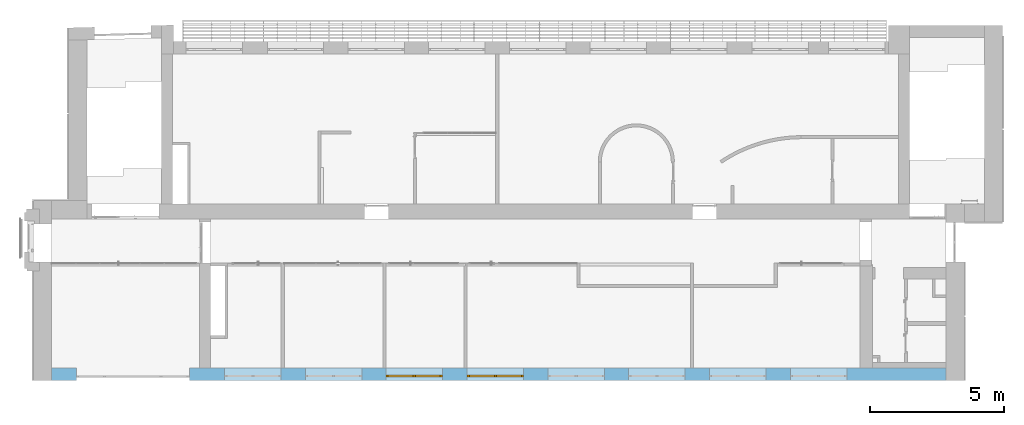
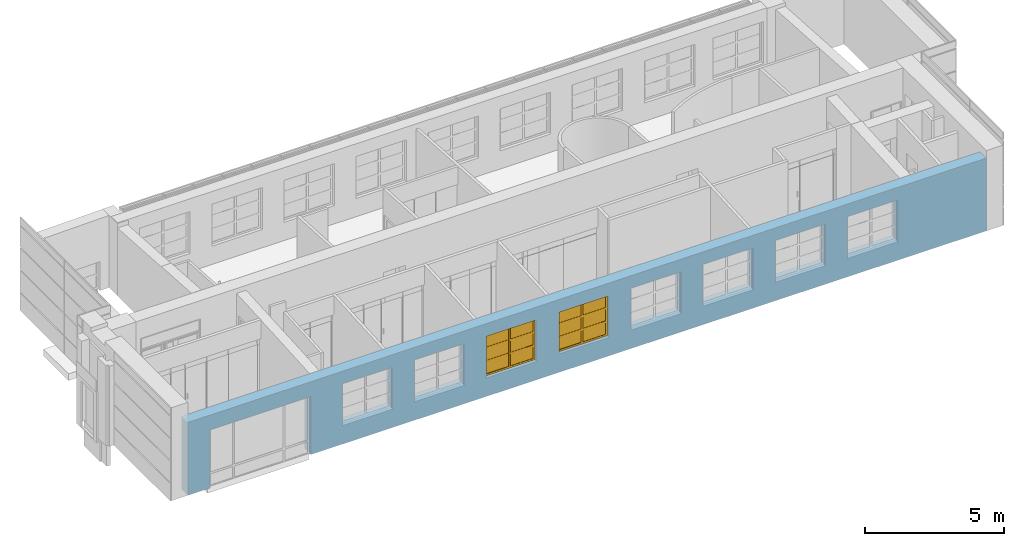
# One storey, part 27 of 46: 2 windows, 9 openings, plus 1 element that does not belong to this part.
"""IFC2X3 building model written with IfcOpenShell, lengths in millimetres."""

from ifc_helpers import new_model, entity, si_unit, converted_unit, derived_unit, direction, frame, frame_2d, origin, origin_2d_with_axis, place, context, subcontext, project, spatial, rectangle, extrude, face_set, surface_model, source, transform, mapped, material, material_list, layer, layer_set, layer_usage, type_object, type_shapes, element, fill, save


model = new_model("IFC2X3")

# Units and contexts
model_context = context("Model", 3, precision=0.01, world=origin(), true_north=direction((6.12303176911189e-17, 1.0)))
body_context = subcontext(model_context, "Body", "Model", "MODEL_VIEW")
ifc_project = project(units=[si_unit("LENGTHUNIT", "METRE", prefix="MILLI"), si_unit("AREAUNIT", "SQUARE_METRE"), si_unit("VOLUMEUNIT", "CUBIC_METRE"), converted_unit("PLANEANGLEUNIT", "DEGREE", entity("IfcRatioMeasure", 0.0174532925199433), si_unit("PLANEANGLEUNIT", "RADIAN"), dimensions=[0, 0, 0, 0, 0, 0, 0]), si_unit("MASSUNIT", "GRAM", prefix="KILO"), derived_unit("MASSDENSITYUNIT", [(si_unit("MASSUNIT", "GRAM", prefix="KILO"), 1), (si_unit("LENGTHUNIT", "METRE"), -3)]), si_unit("TIMEUNIT", "SECOND"), si_unit("FREQUENCYUNIT", "HERTZ"), si_unit("THERMODYNAMICTEMPERATUREUNIT", "DEGREE_CELSIUS"), derived_unit("THERMALTRANSMITTANCEUNIT", [(si_unit("MASSUNIT", "GRAM", prefix="KILO"), 1), (si_unit("THERMODYNAMICTEMPERATUREUNIT", "KELVIN"), -1), (si_unit("TIMEUNIT", "SECOND"), -3)]), derived_unit("VOLUMETRICFLOWRATEUNIT", [(si_unit("LENGTHUNIT", "METRE"), 3), (si_unit("TIMEUNIT", "SECOND"), -1)]), si_unit("ELECTRICCURRENTUNIT", "AMPERE"), si_unit("ELECTRICVOLTAGEUNIT", "VOLT"), si_unit("POWERUNIT", "WATT"), si_unit("FORCEUNIT", "NEWTON", prefix="KILO"), si_unit("ILLUMINANCEUNIT", "LUX"), si_unit("LUMINOUSFLUXUNIT", "LUMEN"), si_unit("LUMINOUSINTENSITYUNIT", "CANDELA"), derived_unit("USERDEFINED", [(si_unit("MASSUNIT", "GRAM", prefix="KILO"), -1), (si_unit("LENGTHUNIT", "METRE"), -2), (si_unit("TIMEUNIT", "SECOND"), 3), (si_unit("LUMINOUSFLUXUNIT", "LUMEN"), 1)]), derived_unit("LINEARVELOCITYUNIT", [(si_unit("LENGTHUNIT", "METRE"), 1), (si_unit("TIMEUNIT", "SECOND"), -1)]), si_unit("PRESSUREUNIT", "PASCAL"), derived_unit("USERDEFINED", [(si_unit("LENGTHUNIT", "METRE"), -2), (si_unit("MASSUNIT", "GRAM", prefix="KILO"), 1), (si_unit("TIMEUNIT", "SECOND"), -2)])], contexts=[model_context])

# Site, building, storey
site_placement = place(None, frame((-151.875543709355, 2715.0, 0.0)))
site = spatial("IfcSite", under=ifc_project, at=site_placement, Name="Surface", CompositionType="ELEMENT")
building_placement = place(site_placement, origin())
building = spatial("IfcBuilding", under=site, at=building_placement, CompositionType="ELEMENT")
storey_placement = place(building_placement, frame((0.0, 0.0, 10060.0)))
storey = spatial("IfcBuildingStorey", under=building, at=storey_placement, Name="4 korrus", CompositionType="ELEMENT", Elevation=10060.0000000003)

# Wall, openings, windows
ifc_material_1 = material(Name="Brick, Common")
ifc_layer_1 = layer(ifc_material_1, 440.0)
ifc_material_2 = material(Name="__Kips GN13_tava")
ifc_layer_2 = layer(ifc_material_2, 20.0)
ifc_layer_set = layer_set([ifc_layer_1, ifc_layer_2], Name="Basic Wall:VS-1")
ifc_layer_usage = layer_usage(ifc_layer_set, "AXIS2", "NEGATIVE", 230.0)
wall_type = type_object("IfcWallType", Name="Basic Wall:VS-1", PredefinedType="STANDARD", material=ifc_layer_set)
wall_placement = place(storey_placement, frame((33741.6162682, 229.904632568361, 0.0), z_axis=(0.0, 0.0, 1.0), x_axis=(-1.0, 0.0, 0.0)))
wall = element("IfcWallStandardCase", 1, at=wall_placement, inside=storey, type_object=wall_type, material=ifc_layer_usage, Name="SEIN - 001", ObjectType="Basic Wall:VS-1", context=body_context, shape_type="SweptSolid", body=[
    extrude(rectangle(XDim=33281.740722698, YDim=460.0, at=frame_2d((16640.870361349, 0.0), x_axis=(-1.0, 0.0))), origin(), (0.0, 0.0, 1.0), 3210.37840402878),
])
opening_1_placement = place(wall_placement, frame((33741.6162682, 229.904632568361, 0.0), z_axis=(0.0, 0.0, 1.0), x_axis=(-1.0, 0.0, 0.0)))
element("IfcOpeningElement", 2, at=opening_1_placement, cuts=wall, Name="SEIN - 001", ObjectType="Opening", context=body_context, shape_type="SweptSolid", body=[
    extrude(rectangle(XDim=2560.0, YDim=4200.0, at=frame_2d((2.27373675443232e-13, 1.02318153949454e-12), x_axis=(0.0, 1.0))), frame((3483.85381698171, 928.104632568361, 1280.0), z_axis=(0.0, -1.0, 0.0), x_axis=(-1.0, 0.0, 0.0)), (0.0, 0.0, 1.0), 1393.8),
])
opening_2_placement = place(wall_placement, frame((33741.6162682, 229.904632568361, 0.0), z_axis=(0.0, 0.0, 1.0), x_axis=(-1.0, 0.0, 0.0)))
element("IfcOpeningElement", 3, at=opening_2_placement, cuts=wall, Name="SEIN - 001", ObjectType="Opening", context=body_context, shape_type="SweptSolid", body=[
    extrude(rectangle(XDim=1850.0, YDim=2100.0, at=frame_2d((0.0, 1.02318153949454e-12), x_axis=(1.0, 0.0))), frame((10949.5647264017, 927.804632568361, 1734.628696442), z_axis=(0.0, -1.0, 0.0), x_axis=(0.0, 0.0, 1.0)), (0.0, 0.0, 1.0), 1393.8),
])
opening_3_placement = place(wall_placement, frame((33741.6162682, 229.904632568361, 0.0), z_axis=(0.0, 0.0, 1.0), x_axis=(-1.0, 0.0, 0.0)))
element("IfcOpeningElement", 4, at=opening_3_placement, cuts=wall, Name="SEIN - 001", ObjectType="Opening", context=body_context, shape_type="SweptSolid", body=[
    extrude(rectangle(XDim=1850.0, YDim=2100.0, at=frame_2d((0.0, 5.6843418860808e-13), x_axis=(1.0, 0.0))), frame((7949.56472636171, 927.804632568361, 1734.628696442), z_axis=(0.0, -1.0, 0.0), x_axis=(0.0, 0.0, 1.0)), (0.0, 0.0, 1.0), 1393.8),
])
opening_4_placement = place(wall_placement, frame((33741.6162682, 229.904632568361, 0.0), z_axis=(0.0, 0.0, 1.0), x_axis=(-1.0, 0.0, 0.0)))
opening_4 = element("IfcOpeningElement", 5, at=opening_4_placement, cuts=wall, Name="SEIN - 001", ObjectType="Opening", context=body_context, shape_type="SweptSolid", body=[
    extrude(rectangle(XDim=1850.0, YDim=2100.0, at=origin_2d_with_axis()), frame((13949.5647264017, 927.804632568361, 1734.628696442), z_axis=(0.0, -1.0, 0.0), x_axis=(0.0, 0.0, 1.0)), (0.0, 0.0, 1.0), 1393.8),
])
opening_5_placement = place(wall_placement, frame((33741.6162682, 229.904632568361, 0.0), z_axis=(0.0, 0.0, 1.0), x_axis=(-1.0, 0.0, 0.0)))
opening_5 = element("IfcOpeningElement", 6, at=opening_5_placement, cuts=wall, Name="SEIN - 001", ObjectType="Opening", context=body_context, shape_type="SweptSolid", body=[
    extrude(rectangle(XDim=1850.0, YDim=2100.0, at=frame_2d((0.0, 1.02318153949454e-12), x_axis=(1.0, 0.0))), frame((16969.5647264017, 927.804632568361, 1734.628696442), z_axis=(0.0, -1.0, 0.0), x_axis=(0.0, 0.0, 1.0)), (0.0, 0.0, 1.0), 1393.8),
])
opening_6_placement = place(wall_placement, frame((33741.6162682, 229.904632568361, 0.0), z_axis=(0.0, 0.0, 1.0), x_axis=(-1.0, 0.0, 0.0)))
element("IfcOpeningElement", 7, at=opening_6_placement, cuts=wall, Name="SEIN - 001", ObjectType="Opening", context=body_context, shape_type="SweptSolid", body=[
    extrude(rectangle(XDim=1850.0, YDim=2100.0, at=origin_2d_with_axis()), frame((19979.5647264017, 927.804632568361, 1734.628696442), z_axis=(0.0, -1.0, 0.0), x_axis=(0.0, 0.0, 1.0)), (0.0, 0.0, 1.0), 1393.8),
])
opening_7_placement = place(wall_placement, frame((33741.6162682, 229.904632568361, 0.0), z_axis=(0.0, 0.0, 1.0), x_axis=(-1.0, 0.0, 0.0)))
element("IfcOpeningElement", 8, at=opening_7_placement, cuts=wall, Name="SEIN - 001", ObjectType="Opening", context=body_context, shape_type="SweptSolid", body=[
    extrude(rectangle(XDim=1850.0, YDim=2100.0, at=origin_2d_with_axis()), frame((22979.5647264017, 927.804632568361, 1734.628696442), z_axis=(0.0, -1.0, 0.0), x_axis=(0.0, 0.0, 1.0)), (0.0, 0.0, 1.0), 1393.8),
])
opening_8_placement = place(wall_placement, frame((33741.6162682, 229.904632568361, 0.0), z_axis=(0.0, 0.0, 1.0), x_axis=(-1.0, 0.0, 0.0)))
element("IfcOpeningElement", 9, at=opening_8_placement, cuts=wall, Name="SEIN - 001", ObjectType="Opening", context=body_context, shape_type="SweptSolid", body=[
    extrude(rectangle(XDim=1850.0, YDim=2100.0, at=origin_2d_with_axis()), frame((25989.5647264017, 927.804632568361, 1734.628696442), z_axis=(0.0, -1.0, 0.0), x_axis=(0.0, 0.0, 1.0)), (0.0, 0.0, 1.0), 1393.8),
])
opening_9_placement = place(wall_placement, frame((33741.6162682, 229.904632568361, 0.0), z_axis=(0.0, 0.0, 1.0), x_axis=(-1.0, 0.0, 0.0)))
element("IfcOpeningElement", 10, at=opening_9_placement, cuts=wall, Name="SEIN - 001", ObjectType="Opening", context=body_context, shape_type="SweptSolid", body=[
    extrude(rectangle(XDim=1850.0, YDim=2100.0, at=origin_2d_with_axis()), frame((28999.5647264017, 927.804632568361, 1734.628696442), z_axis=(0.0, -1.0, 0.0), x_axis=(0.0, 0.0, 1.0)), (0.0, 0.0, 1.0), 1393.8),
])
ifc_material_3 = material(Name="Paint - Titanium White")
ifc_material_4 = material(Name="Paint - Dark Gray")
ifc_material_5 = material(Name="Glass - Clear Fast")
ifc_material_list_1 = material_list([ifc_material_3, ifc_material_4, ifc_material_5])
ifc_material_list_2 = material_list([ifc_material_3, ifc_material_4, ifc_material_5])
window_style = type_object("IfcWindowStyle", Name="Aken_1850x2100", ConstructionType="NOTDEFINED", OperationType="DOUBLE_PANEL_VERTICAL", ParameterTakesPrecedence=False, Sizeable=False, material=ifc_material_list_2)
shared_shape = source(origin(), body_context, "Body", "SurfaceModel", [
    surface_model("IfcFaceBasedSurfaceModel", [(80.0, -665.9, 1770.0), (80.0, -620.9, 1770.0), (0.0, -620.9, 1770.0), (0.0, -665.9, 1770.0), (80.0, -665.9, 80.0), (80.0, -620.9, 80.0), (80.0, -620.9, 1770.0), (80.0, -665.9, 1770.0), (80.0, -620.9, 1770.0), (80.0, -620.9, 80.0), (0.0, -620.9, 80.0), (0.0, -620.9, 1770.0), (0.0, -665.9, 1770.0), (0.0, -620.9, 1770.0), (0.0, -620.9, 80.0), (0.0, -665.9, 80.0), (80.0, -665.9, 1770.0), (0.0, -665.9, 1770.0), (0.0, -665.9, 80.0), (80.0, -665.9, 80.0), (0.0, -665.9, 80.0), (0.0, -620.9, 80.0), (80.0, -620.9, 80.0), (80.0, -665.9, 80.0), (2020.0, -665.9, 80.0), (2020.0, -620.9, 80.0), (2100.0, -620.9, 80.0), (2100.0, -665.9, 80.0), (2020.0, -665.9, 1770.0), (2020.0, -620.9, 1770.0), (2020.0, -620.9, 80.0), (2020.0, -665.9, 80.0), (2020.0, -620.9, 80.0), (2020.0, -620.9, 1770.0), (2100.0, -620.9, 1770.0), (2100.0, -620.9, 80.0), (2100.0, -665.9, 80.0), (2100.0, -620.9, 80.0), (2100.0, -620.9, 1770.0), (2100.0, -665.9, 1770.0), (2020.0, -665.9, 80.0), (2100.0, -665.9, 80.0), (2100.0, -665.9, 1770.0), (2020.0, -665.9, 1770.0), (2100.0, -665.9, 1770.0), (2100.0, -620.9, 1770.0), (2020.0, -620.9, 1770.0), (2020.0, -665.9, 1770.0), (1010.0, -665.9, 80.0), (1010.0, -620.9, 80.0), (1090.0, -620.9, 80.0), (1090.0, -665.9, 80.0), (1010.0, -665.9, 1770.0), (1010.0, -620.9, 1770.0), (1010.0, -620.9, 80.0), (1010.0, -665.9, 80.0), (1010.0, -620.9, 80.0), (1010.0, -620.9, 1770.0), (1090.0, -620.9, 1770.0), (1090.0, -620.9, 80.0), (1090.0, -665.9, 80.0), (1090.0, -620.9, 80.0), (1090.0, -620.9, 1770.0), (1090.0, -665.9, 1770.0), (1010.0, -665.9, 80.0), (1090.0, -665.9, 80.0), (1090.0, -665.9, 1770.0), (1010.0, -665.9, 1770.0), (1090.0, -665.9, 1770.0), (1090.0, -620.9, 1770.0), (1010.0, -620.9, 1770.0), (1010.0, -665.9, 1770.0), (80.0, -665.9, 80.0), (80.0, -620.9, 80.0), (0.0, -620.9, 80.0), (0.0, -665.9, 80.0), (1010.0, -665.9, 80.0), (1010.0, -620.9, 80.0), (80.0, -620.9, 80.0), (80.0, -665.9, 80.0), (80.0, -620.9, 80.0), (1010.0, -620.9, 80.0), (1090.0, -620.9, 80.0), (2020.0, -620.9, 80.0), (2100.0, -620.9, 80.0), (2100.0, -620.9, 0.0), (0.0, -620.9, 0.0), (0.0, -620.9, 80.0), (0.0, -665.9, 80.0), (0.0, -620.9, 80.0), (0.0, -620.9, 0.0), (0.0, -665.9, 0.0), (80.0, -665.9, 80.0), (0.0, -665.9, 80.0), (0.0, -665.9, 0.0), (2100.0, -665.9, 0.0), (2100.0, -665.9, 80.0), (2020.0, -665.9, 80.0), (1090.0, -665.9, 80.0), (1010.0, -665.9, 80.0), (1090.0, -665.9, 80.0), (1090.0, -620.9, 80.0), (1010.0, -620.9, 80.0), (1010.0, -665.9, 80.0), (2020.0, -665.9, 80.0), (2020.0, -620.9, 80.0), (1090.0, -620.9, 80.0), (1090.0, -665.9, 80.0), (2100.0, -665.9, 80.0), (2100.0, -620.9, 80.0), (2020.0, -620.9, 80.0), (2020.0, -665.9, 80.0), (2100.0, -665.9, 0.0), (2100.0, -620.9, 0.0), (2100.0, -620.9, 80.0), (2100.0, -665.9, 80.0), (0.0, -665.9, 0.0), (0.0, -620.9, 0.0), (2100.0, -620.9, 0.0), (2100.0, -665.9, 0.0), (1010.0, -665.9, 1770.0), (1010.0, -620.9, 1770.0), (1090.0, -620.9, 1770.0), (1090.0, -665.9, 1770.0), (80.0, -665.9, 1770.0), (80.0, -620.9, 1770.0), (1010.0, -620.9, 1770.0), (1010.0, -665.9, 1770.0), (1010.0, -620.9, 1770.0), (80.0, -620.9, 1770.0), (0.0, -620.9, 1770.0), (0.0, -620.9, 1850.0), (2100.0, -620.9, 1850.0), (2100.0, -620.9, 1770.0), (2020.0, -620.9, 1770.0), (1090.0, -620.9, 1770.0), (1090.0, -665.9, 1770.0), (1090.0, -620.9, 1770.0), (2020.0, -620.9, 1770.0), (2020.0, -665.9, 1770.0), (1010.0, -665.9, 1770.0), (1090.0, -665.9, 1770.0), (2020.0, -665.9, 1770.0), (2100.0, -665.9, 1770.0), (2100.0, -665.9, 1850.0), (0.0, -665.9, 1850.0), (0.0, -665.9, 1770.0), (80.0, -665.9, 1770.0), (0.0, -665.9, 1770.0), (0.0, -620.9, 1770.0), (80.0, -620.9, 1770.0), (80.0, -665.9, 1770.0), (0.0, -665.9, 1850.0), (0.0, -620.9, 1850.0), (0.0, -620.9, 1770.0), (0.0, -665.9, 1770.0), (2100.0, -665.9, 1850.0), (2100.0, -620.9, 1850.0), (0.0, -620.9, 1850.0), (0.0, -665.9, 1850.0), (2100.0, -665.9, 1770.0), (2100.0, -620.9, 1770.0), (2100.0, -620.9, 1850.0), (2100.0, -665.9, 1850.0), (2020.0, -665.9, 1770.0), (2020.0, -620.9, 1770.0), (2100.0, -620.9, 1770.0), (2100.0, -665.9, 1770.0), (80.0, -640.9, 590.0), (80.0, -630.9, 590.0), (1010.0, -630.9, 590.0), (1010.0, -640.9, 590.0), (80.0, -640.9, 670.0), (80.0, -630.9, 670.0), (80.0, -630.9, 590.0), (80.0, -640.9, 590.0), (80.0, -630.9, 590.0), (80.0, -630.9, 670.0), (1010.0, -630.9, 670.0), (1010.0, -630.9, 590.0), (1010.0, -640.9, 590.0), (1010.0, -630.9, 590.0), (1010.0, -630.9, 670.0), (1010.0, -640.9, 670.0), (80.0, -640.9, 590.0), (1010.0, -640.9, 590.0), (1010.0, -640.9, 670.0), (80.0, -640.9, 670.0), (1010.0, -640.9, 670.0), (1010.0, -630.9, 670.0), (80.0, -630.9, 670.0), (80.0, -640.9, 670.0), (80.0, -640.9, 1180.0), (80.0, -630.9, 1180.0), (1010.0, -630.9, 1180.0), (1010.0, -640.9, 1180.0), (80.0, -640.9, 1260.0), (80.0, -630.9, 1260.0), (80.0, -630.9, 1180.0), (80.0, -640.9, 1180.0), (80.0, -630.9, 1180.0), (80.0, -630.9, 1260.0), (1010.0, -630.9, 1260.0), (1010.0, -630.9, 1180.0), (1010.0, -640.9, 1180.0), (1010.0, -630.9, 1180.0), (1010.0, -630.9, 1260.0), (1010.0, -640.9, 1260.0), (80.0, -640.9, 1180.0), (1010.0, -640.9, 1180.0), (1010.0, -640.9, 1260.0), (80.0, -640.9, 1260.0), (1010.0, -640.9, 1260.0), (1010.0, -630.9, 1260.0), (80.0, -630.9, 1260.0), (80.0, -640.9, 1260.0), (1090.0, -640.9, 590.0), (1090.0, -630.9, 590.0), (2020.0, -630.9, 590.0), (2020.0, -640.9, 590.0), (1090.0, -640.9, 670.0), (1090.0, -630.9, 670.0), (1090.0, -630.9, 590.0), (1090.0, -640.9, 590.0), (1090.0, -630.9, 590.0), (1090.0, -630.9, 670.0), (2020.0, -630.9, 670.0), (2020.0, -630.9, 590.0), (2020.0, -640.9, 590.0), (2020.0, -630.9, 590.0), (2020.0, -630.9, 670.0), (2020.0, -640.9, 670.0), (1090.0, -640.9, 590.0), (2020.0, -640.9, 590.0), (2020.0, -640.9, 670.0), (1090.0, -640.9, 670.0), (2020.0, -640.9, 670.0), (2020.0, -630.9, 670.0), (1090.0, -630.9, 670.0), (1090.0, -640.9, 670.0), (1090.0, -640.9, 1180.0), (1090.0, -630.9, 1180.0), (2020.0, -630.9, 1180.0), (2020.0, -640.9, 1180.0), (1090.0, -640.9, 1260.0), (1090.0, -630.9, 1260.0), (1090.0, -630.9, 1180.0), (1090.0, -640.9, 1180.0), (1090.0, -630.9, 1180.0), (1090.0, -630.9, 1260.0), (2020.0, -630.9, 1260.0), (2020.0, -630.9, 1180.0), (2020.0, -640.9, 1180.0), (2020.0, -630.9, 1180.0), (2020.0, -630.9, 1260.0), (2020.0, -640.9, 1260.0), (1090.0, -640.9, 1180.0), (2020.0, -640.9, 1180.0), (2020.0, -640.9, 1260.0), (1090.0, -640.9, 1260.0), (2020.0, -640.9, 1260.0), (2020.0, -630.9, 1260.0), (1090.0, -630.9, 1260.0), (1090.0, -640.9, 1260.0)], [face_set([[[0, 1, 2, 3]]]), face_set([[[4, 5, 6, 7]]]), face_set([[[8, 9, 10, 11]]]), face_set([[[12, 13, 14, 15]]]), face_set([[[16, 17, 18, 19]]]), face_set([[[20, 21, 22, 23]]]), face_set([[[24, 25, 26, 27]]]), face_set([[[28, 29, 30, 31]]]), face_set([[[32, 33, 34, 35]]]), face_set([[[36, 37, 38, 39]]]), face_set([[[40, 41, 42, 43]]]), face_set([[[44, 45, 46, 47]]]), face_set([[[48, 49, 50, 51]]]), face_set([[[52, 53, 54, 55]]]), face_set([[[56, 57, 58, 59]]]), face_set([[[60, 61, 62, 63]]]), face_set([[[64, 65, 66, 67]]]), face_set([[[68, 69, 70, 71]]]), face_set([[[72, 73, 74, 75]]]), face_set([[[76, 77, 78, 79]]]), face_set([[[80, 81, 82, 83, 84, 85, 86, 87]]]), face_set([[[88, 89, 90, 91]]]), face_set([[[92, 93, 94, 95, 96, 97, 98, 99]]]), face_set([[[100, 101, 102, 103]]]), face_set([[[104, 105, 106, 107]]]), face_set([[[108, 109, 110, 111]]]), face_set([[[112, 113, 114, 115]]]), face_set([[[116, 117, 118, 119]]]), face_set([[[120, 121, 122, 123]]]), face_set([[[124, 125, 126, 127]]]), face_set([[[128, 129, 130, 131, 132, 133, 134, 135]]]), face_set([[[136, 137, 138, 139]]]), face_set([[[140, 141, 142, 143, 144, 145, 146, 147]]]), face_set([[[148, 149, 150, 151]]]), face_set([[[152, 153, 154, 155]]]), face_set([[[156, 157, 158, 159]]]), face_set([[[160, 161, 162, 163]]]), face_set([[[164, 165, 166, 167]]]), face_set([[[168, 169, 170, 171]]]), face_set([[[172, 173, 174, 175]]]), face_set([[[176, 177, 178, 179]]]), face_set([[[180, 181, 182, 183]]]), face_set([[[184, 185, 186, 187]]]), face_set([[[188, 189, 190, 191]]]), face_set([[[192, 193, 194, 195]]]), face_set([[[196, 197, 198, 199]]]), face_set([[[200, 201, 202, 203]]]), face_set([[[204, 205, 206, 207]]]), face_set([[[208, 209, 210, 211]]]), face_set([[[212, 213, 214, 215]]]), face_set([[[216, 217, 218, 219]]]), face_set([[[220, 221, 222, 223]]]), face_set([[[224, 225, 226, 227]]]), face_set([[[228, 229, 230, 231]]]), face_set([[[232, 233, 234, 235]]]), face_set([[[236, 237, 238, 239]]]), face_set([[[240, 241, 242, 243]]]), face_set([[[244, 245, 246, 247]]]), face_set([[[248, 249, 250, 251]]]), face_set([[[252, 253, 254, 255]]]), face_set([[[256, 257, 258, 259]]]), face_set([[[260, 261, 262, 263]]])]),
    surface_model("IfcFaceBasedSurfaceModel", [(80.0, -620.9, 1770.0), (80.0, -595.9, 1770.0), (0.0, -595.9, 1770.0), (0.0, -620.9, 1770.0), (80.0, -620.9, 80.0), (80.0, -595.9, 80.0), (80.0, -595.9, 1770.0), (80.0, -620.9, 1770.0), (80.0, -595.9, 1770.0), (80.0, -595.9, 80.0), (0.0, -595.9, 80.0), (0.0, -595.9, 1770.0), (0.0, -620.9, 1770.0), (0.0, -595.9, 1770.0), (0.0, -595.9, 80.0), (0.0, -620.9, 80.0), (80.0, -620.9, 1770.0), (0.0, -620.9, 1770.0), (0.0, -620.9, 80.0), (80.0, -620.9, 80.0), (0.0, -620.9, 80.0), (0.0, -595.9, 80.0), (80.0, -595.9, 80.0), (80.0, -620.9, 80.0), (2020.0, -620.9, 80.0), (2020.0, -595.9, 80.0), (2100.0, -595.9, 80.0), (2100.0, -620.9, 80.0), (2020.0, -620.9, 1770.0), (2020.0, -595.9, 1770.0), (2020.0, -595.9, 80.0), (2020.0, -620.9, 80.0), (2020.0, -595.9, 80.0), (2020.0, -595.9, 1770.0), (2100.0, -595.9, 1770.0), (2100.0, -595.9, 80.0), (2100.0, -620.9, 80.0), (2100.0, -595.9, 80.0), (2100.0, -595.9, 1770.0), (2100.0, -620.9, 1770.0), (2020.0, -620.9, 80.0), (2100.0, -620.9, 80.0), (2100.0, -620.9, 1770.0), (2020.0, -620.9, 1770.0), (2100.0, -620.9, 1770.0), (2100.0, -595.9, 1770.0), (2020.0, -595.9, 1770.0), (2020.0, -620.9, 1770.0), (1010.0, -620.9, 80.0), (1010.0, -595.9, 80.0), (1090.0, -595.9, 80.0), (1090.0, -620.9, 80.0), (1010.0, -620.9, 1770.0), (1010.0, -595.9, 1770.0), (1010.0, -595.9, 80.0), (1010.0, -620.9, 80.0), (1010.0, -595.9, 80.0), (1010.0, -595.9, 1770.0), (1090.0, -595.9, 1770.0), (1090.0, -595.9, 80.0), (1090.0, -620.9, 80.0), (1090.0, -595.9, 80.0), (1090.0, -595.9, 1770.0), (1090.0, -620.9, 1770.0), (1010.0, -620.9, 80.0), (1090.0, -620.9, 80.0), (1090.0, -620.9, 1770.0), (1010.0, -620.9, 1770.0), (1090.0, -620.9, 1770.0), (1090.0, -595.9, 1770.0), (1010.0, -595.9, 1770.0), (1010.0, -620.9, 1770.0), (80.0, -620.9, 80.0), (80.0, -595.9, 80.0), (0.0, -595.9, 80.0), (0.0, -620.9, 80.0), (1010.0, -620.9, 80.0), (1010.0, -595.9, 80.0), (80.0, -595.9, 80.0), (80.0, -620.9, 80.0), (80.0, -595.9, 80.0), (1010.0, -595.9, 80.0), (1090.0, -595.9, 80.0), (2020.0, -595.9, 80.0), (2100.0, -595.9, 80.0), (2100.0, -595.9, 0.0), (0.0, -595.9, 0.0), (0.0, -595.9, 80.0), (0.0, -620.9, 80.0), (0.0, -595.9, 80.0), (0.0, -595.9, 0.0), (0.0, -620.9, 0.0), (80.0, -620.9, 80.0), (0.0, -620.9, 80.0), (0.0, -620.9, 0.0), (2100.0, -620.9, 0.0), (2100.0, -620.9, 80.0), (2020.0, -620.9, 80.0), (1090.0, -620.9, 80.0), (1010.0, -620.9, 80.0), (1090.0, -620.9, 80.0), (1090.0, -595.9, 80.0), (1010.0, -595.9, 80.0), (1010.0, -620.9, 80.0), (2020.0, -620.9, 80.0), (2020.0, -595.9, 80.0), (1090.0, -595.9, 80.0), (1090.0, -620.9, 80.0), (2100.0, -620.9, 80.0), (2100.0, -595.9, 80.0), (2020.0, -595.9, 80.0), (2020.0, -620.9, 80.0), (2100.0, -620.9, 0.0), (2100.0, -595.9, 0.0), (2100.0, -595.9, 80.0), (2100.0, -620.9, 80.0), (0.0, -620.9, 0.0), (0.0, -595.9, 0.0), (2100.0, -595.9, 0.0), (2100.0, -620.9, 0.0), (1010.0, -620.9, 1770.0), (1010.0, -595.9, 1770.0), (1090.0, -595.9, 1770.0), (1090.0, -620.9, 1770.0), (80.0, -620.9, 1770.0), (80.0, -595.9, 1770.0), (1010.0, -595.9, 1770.0), (1010.0, -620.9, 1770.0), (1010.0, -595.9, 1770.0), (80.0, -595.9, 1770.0), (0.0, -595.9, 1770.0), (0.0, -595.9, 1850.0), (2100.0, -595.9, 1850.0), (2100.0, -595.9, 1770.0), (2020.0, -595.9, 1770.0), (1090.0, -595.9, 1770.0), (1090.0, -620.9, 1770.0), (1090.0, -595.9, 1770.0), (2020.0, -595.9, 1770.0), (2020.0, -620.9, 1770.0), (1010.0, -620.9, 1770.0), (1090.0, -620.9, 1770.0), (2020.0, -620.9, 1770.0), (2100.0, -620.9, 1770.0), (2100.0, -620.9, 1850.0), (0.0, -620.9, 1850.0), (0.0, -620.9, 1770.0), (80.0, -620.9, 1770.0), (0.0, -620.9, 1770.0), (0.0, -595.9, 1770.0), (80.0, -595.9, 1770.0), (80.0, -620.9, 1770.0), (0.0, -620.9, 1850.0), (0.0, -595.9, 1850.0), (0.0, -595.9, 1770.0), (0.0, -620.9, 1770.0), (2100.0, -620.9, 1850.0), (2100.0, -595.9, 1850.0), (0.0, -595.9, 1850.0), (0.0, -620.9, 1850.0), (2100.0, -620.9, 1770.0), (2100.0, -595.9, 1770.0), (2100.0, -595.9, 1850.0), (2100.0, -620.9, 1850.0), (2020.0, -620.9, 1770.0), (2020.0, -595.9, 1770.0), (2100.0, -595.9, 1770.0), (2100.0, -620.9, 1770.0), (80.0, -630.9, 590.0), (80.0, -600.9, 590.0), (1010.0, -600.9, 590.0), (1010.0, -630.9, 590.0), (80.0, -630.9, 670.0), (80.0, -600.9, 670.0), (80.0, -600.9, 590.0), (80.0, -630.9, 590.0), (80.0, -600.9, 590.0), (80.0, -600.9, 670.0), (1010.0, -600.9, 670.0), (1010.0, -600.9, 590.0), (1010.0, -630.9, 590.0), (1010.0, -600.9, 590.0), (1010.0, -600.9, 670.0), (1010.0, -630.9, 670.0), (80.0, -630.9, 590.0), (1010.0, -630.9, 590.0), (1010.0, -630.9, 670.0), (80.0, -630.9, 670.0), (1010.0, -630.9, 670.0), (1010.0, -600.9, 670.0), (80.0, -600.9, 670.0), (80.0, -630.9, 670.0), (80.0, -630.9, 1180.0), (80.0, -600.9, 1180.0), (1010.0, -600.9, 1180.0), (1010.0, -630.9, 1180.0), (80.0, -630.9, 1260.0), (80.0, -600.9, 1260.0), (80.0, -600.9, 1180.0), (80.0, -630.9, 1180.0), (80.0, -600.9, 1180.0), (80.0, -600.9, 1260.0), (1010.0, -600.9, 1260.0), (1010.0, -600.9, 1180.0), (1010.0, -630.9, 1180.0), (1010.0, -600.9, 1180.0), (1010.0, -600.9, 1260.0), (1010.0, -630.9, 1260.0), (80.0, -630.9, 1180.0), (1010.0, -630.9, 1180.0), (1010.0, -630.9, 1260.0), (80.0, -630.9, 1260.0), (1010.0, -630.9, 1260.0), (1010.0, -600.9, 1260.0), (80.0, -600.9, 1260.0), (80.0, -630.9, 1260.0), (1090.0, -630.9, 590.0), (1090.0, -600.9, 590.0), (2020.0, -600.9, 590.0), (2020.0, -630.9, 590.0), (1090.0, -630.9, 670.0), (1090.0, -600.9, 670.0), (1090.0, -600.9, 590.0), (1090.0, -630.9, 590.0), (1090.0, -600.9, 590.0), (1090.0, -600.9, 670.0), (2020.0, -600.9, 670.0), (2020.0, -600.9, 590.0), (2020.0, -630.9, 590.0), (2020.0, -600.9, 590.0), (2020.0, -600.9, 670.0), (2020.0, -630.9, 670.0), (1090.0, -630.9, 590.0), (2020.0, -630.9, 590.0), (2020.0, -630.9, 670.0), (1090.0, -630.9, 670.0), (2020.0, -630.9, 670.0), (2020.0, -600.9, 670.0), (1090.0, -600.9, 670.0), (1090.0, -630.9, 670.0), (1090.0, -630.9, 1180.0), (1090.0, -600.9, 1180.0), (2020.0, -600.9, 1180.0), (2020.0, -630.9, 1180.0), (1090.0, -630.9, 1260.0), (1090.0, -600.9, 1260.0), (1090.0, -600.9, 1180.0), (1090.0, -630.9, 1180.0), (1090.0, -600.9, 1180.0), (1090.0, -600.9, 1260.0), (2020.0, -600.9, 1260.0), (2020.0, -600.9, 1180.0), (2020.0, -630.9, 1180.0), (2020.0, -600.9, 1180.0), (2020.0, -600.9, 1260.0), (2020.0, -630.9, 1260.0), (1090.0, -630.9, 1180.0), (2020.0, -630.9, 1180.0), (2020.0, -630.9, 1260.0), (1090.0, -630.9, 1260.0), (2020.0, -630.9, 1260.0), (2020.0, -600.9, 1260.0), (1090.0, -600.9, 1260.0), (1090.0, -630.9, 1260.0)], [face_set([[[0, 1, 2, 3]]]), face_set([[[4, 5, 6, 7]]]), face_set([[[8, 9, 10, 11]]]), face_set([[[12, 13, 14, 15]]]), face_set([[[16, 17, 18, 19]]]), face_set([[[20, 21, 22, 23]]]), face_set([[[24, 25, 26, 27]]]), face_set([[[28, 29, 30, 31]]]), face_set([[[32, 33, 34, 35]]]), face_set([[[36, 37, 38, 39]]]), face_set([[[40, 41, 42, 43]]]), face_set([[[44, 45, 46, 47]]]), face_set([[[48, 49, 50, 51]]]), face_set([[[52, 53, 54, 55]]]), face_set([[[56, 57, 58, 59]]]), face_set([[[60, 61, 62, 63]]]), face_set([[[64, 65, 66, 67]]]), face_set([[[68, 69, 70, 71]]]), face_set([[[72, 73, 74, 75]]]), face_set([[[76, 77, 78, 79]]]), face_set([[[80, 81, 82, 83, 84, 85, 86, 87]]]), face_set([[[88, 89, 90, 91]]]), face_set([[[92, 93, 94, 95, 96, 97, 98, 99]]]), face_set([[[100, 101, 102, 103]]]), face_set([[[104, 105, 106, 107]]]), face_set([[[108, 109, 110, 111]]]), face_set([[[112, 113, 114, 115]]]), face_set([[[116, 117, 118, 119]]]), face_set([[[120, 121, 122, 123]]]), face_set([[[124, 125, 126, 127]]]), face_set([[[128, 129, 130, 131, 132, 133, 134, 135]]]), face_set([[[136, 137, 138, 139]]]), face_set([[[140, 141, 142, 143, 144, 145, 146, 147]]]), face_set([[[148, 149, 150, 151]]]), face_set([[[152, 153, 154, 155]]]), face_set([[[156, 157, 158, 159]]]), face_set([[[160, 161, 162, 163]]]), face_set([[[164, 165, 166, 167]]]), face_set([[[168, 169, 170, 171]]]), face_set([[[172, 173, 174, 175]]]), face_set([[[176, 177, 178, 179]]]), face_set([[[180, 181, 182, 183]]]), face_set([[[184, 185, 186, 187]]]), face_set([[[188, 189, 190, 191]]]), face_set([[[192, 193, 194, 195]]]), face_set([[[196, 197, 198, 199]]]), face_set([[[200, 201, 202, 203]]]), face_set([[[204, 205, 206, 207]]]), face_set([[[208, 209, 210, 211]]]), face_set([[[212, 213, 214, 215]]]), face_set([[[216, 217, 218, 219]]]), face_set([[[220, 221, 222, 223]]]), face_set([[[224, 225, 226, 227]]]), face_set([[[228, 229, 230, 231]]]), face_set([[[232, 233, 234, 235]]]), face_set([[[236, 237, 238, 239]]]), face_set([[[240, 241, 242, 243]]]), face_set([[[244, 245, 246, 247]]]), face_set([[[248, 249, 250, 251]]]), face_set([[[252, 253, 254, 255]]]), face_set([[[256, 257, 258, 259]]]), face_set([[[260, 261, 262, 263]]])]),
    surface_model("IfcFaceBasedSurfaceModel", [(1010.0, -630.9, 80.0), (1010.0, -630.9, 590.0), (80.0, -630.9, 590.0), (80.0, -630.9, 80.0), (1010.0, -610.9, 80.0), (80.0, -610.9, 80.0), (80.0, -610.9, 590.0), (1010.0, -610.9, 590.0), (1010.0, -630.9, 670.0), (1010.0, -630.9, 1180.0), (80.0, -630.9, 1180.0), (80.0, -630.9, 670.0), (1010.0, -610.9, 670.0), (80.0, -610.9, 670.0), (80.0, -610.9, 1180.0), (1010.0, -610.9, 1180.0), (1010.0, -630.9, 1260.0), (1010.0, -630.9, 1770.0), (80.0, -630.9, 1770.0), (80.0, -630.9, 1260.0), (1010.0, -610.9, 1260.0), (80.0, -610.9, 1260.0), (80.0, -610.9, 1770.0), (1010.0, -610.9, 1770.0), (2020.0, -630.9, 80.0), (2020.0, -630.9, 590.0), (1090.0, -630.9, 590.0), (1090.0, -630.9, 80.0), (2020.0, -610.9, 80.0), (1090.0, -610.9, 80.0), (1090.0, -610.9, 590.0), (2020.0, -610.9, 590.0), (2020.0, -630.9, 670.0), (2020.0, -630.9, 1180.0), (1090.0, -630.9, 1180.0), (1090.0, -630.9, 670.0), (2020.0, -610.9, 670.0), (1090.0, -610.9, 670.0), (1090.0, -610.9, 1180.0), (2020.0, -610.9, 1180.0), (2020.0, -630.9, 1260.0), (2020.0, -630.9, 1770.0), (1090.0, -630.9, 1770.0), (1090.0, -630.9, 1260.0), (2020.0, -610.9, 1260.0), (1090.0, -610.9, 1260.0), (1090.0, -610.9, 1770.0), (2020.0, -610.9, 1770.0)], [face_set([[[0, 1, 2, 3]]]), face_set([[[4, 5, 6, 7]]]), face_set([[[8, 9, 10, 11]]]), face_set([[[12, 13, 14, 15]]]), face_set([[[16, 17, 18, 19]]]), face_set([[[20, 21, 22, 23]]]), face_set([[[24, 25, 26, 27]]]), face_set([[[28, 29, 30, 31]]]), face_set([[[32, 33, 34, 35]]]), face_set([[[36, 37, 38, 39]]]), face_set([[[40, 41, 42, 43]]]), face_set([[[44, 45, 46, 47]]])]),
])
type_shapes(window_style, [shared_shape])
window_1_placement = place(opening_4_placement, frame((14999.5647264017, -465.995367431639, 809.628696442), z_axis=(0.0, 0.0, 1.0), x_axis=(-1.0, 0.0, 0.0)))
window_1 = element("IfcWindow", 11, at=window_1_placement, inside=storey, type_object=window_style, material=ifc_material_list_1, Name="Aken_1850x2100:Aken_1850x2100", ObjectType="Aken_1850x2100", OverallHeight=2100.0, OverallWidth=1850.0, context=body_context, shape_type="MappedRepresentation", body=[
    mapped(shared_shape, transform((0.0, 0.0, 0.0), scale=1.0)),
])
fill(opening_4, window_1)
ifc_material_list_3 = material_list([ifc_material_3, ifc_material_4, ifc_material_5])
window_2_placement = place(opening_5_placement, frame((18019.5647264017, -465.995367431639, 809.628696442), z_axis=(0.0, 0.0, 1.0), x_axis=(-1.0, 0.0, 0.0)))
window_2 = element("IfcWindow", 12, at=window_2_placement, inside=storey, type_object=window_style, material=ifc_material_list_3, Name="Aken_1850x2100:Aken_1850x2100", ObjectType="Aken_1850x2100", OverallHeight=2100.0, OverallWidth=1850.0, context=body_context, shape_type="MappedRepresentation", body=[
    mapped(shared_shape, transform((0.0, 0.0, 0.0), scale=1.0)),
])
fill(opening_5, window_2)

save(model, "model.ifc")
